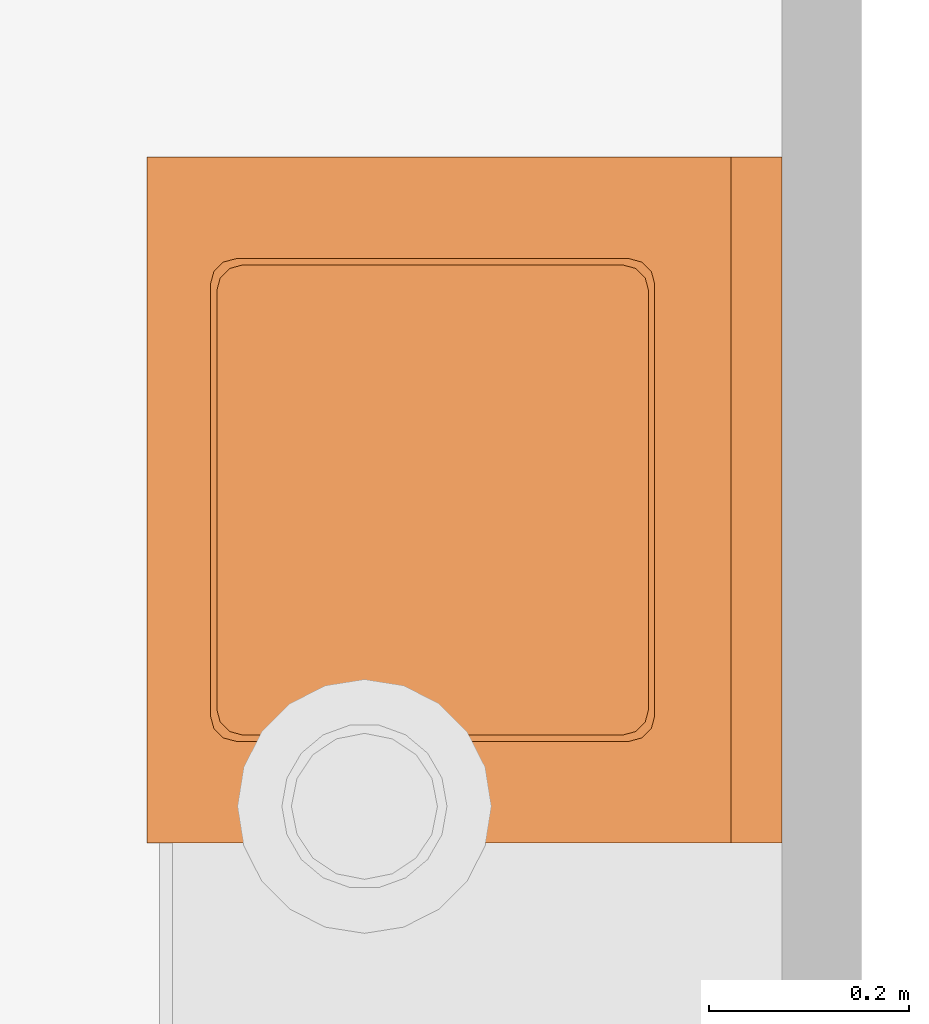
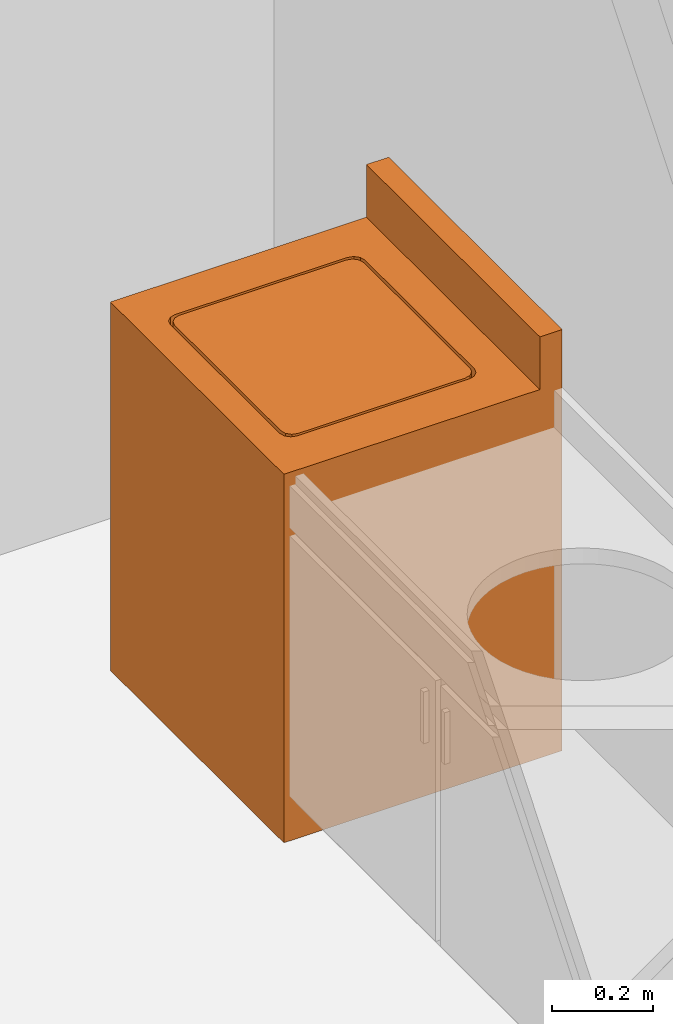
# One storey, part 28 of 28: 1 proxy.
"""IFC2X3 building model written with IfcOpenShell, lengths in feet."""

import ifcopenshell
import ifcopenshell.guid

model = None  # the IFC model being written
_history = None  # IfcOwnerHistory: only IFC2X3 demands one
_inside = {}  # id of a spatial element -> (the spatial element, [elements in it])
_under = {}  # id of a project, library or spatial element -> (it, [spatial elements below it])
_declared = {}  # id of a project -> (the project, [libraries it declares])
_typed = {}  # id of a type object -> (the type object, [elements of that type])
_made_of = {}  # id of a material, layer set ... -> (it, [elements and type objects made of it])


def new_model(schema):
    """Start an empty IFC model of exactly this schema.

    Asked for "IFC4X3", IfcOpenShell would pick the latest addendum, in which some entities
    have other attributes; the version numbers below select the first issue.
    IFC2X3 requires an IfcOwnerHistory on every rooted entity: one is made here for all.
    """
    global model, _history
    if schema == "IFC4X3":
        model = ifcopenshell.file(schema_version=(4, 3, 0, 0))
    else:
        model = ifcopenshell.file(schema=schema)
    _inside.clear()
    _under.clear()
    _declared.clear()
    _typed.clear()
    _made_of.clear()
    _history = None
    if model.schema == "IFC2X3":
        org = make("IfcOrganization", Name="unknown")
        user = make(
            "IfcPersonAndOrganization",
            ThePerson=make("IfcPerson", FamilyName="unknown"),
            TheOrganization=org,
        )
        app = make(
            "IfcApplication",
            ApplicationDeveloper=org,
            Version="unknown",
            ApplicationFullName="unknown",
            ApplicationIdentifier="unknown",
        )
        _history = make(
            "IfcOwnerHistory",
            OwningUser=user,
            OwningApplication=app,
            ChangeAction="ADDED",
            CreationDate=0,
        )
    return model


def make(cls, **values):
    """One entity of the class cls with the attributes given. An attribute that is None is left unset."""
    return model.create_entity(
        cls, **{name: value for name, value in values.items() if value is not None}
    )


def entity(cls, *values):
    """Any entity or typed value of the class cls, its attributes in the order of the schema. None: left unset."""
    e = model.create_entity(cls)
    for i, value in enumerate(values):
        if value is not None:
            e[i] = value
    return e


def rooted(cls, **values):
    """An entity with a GlobalId (a new one), such as an element, a storey or a relation."""
    return make(cls, GlobalId=ifcopenshell.guid.new(), OwnerHistory=_history, **values)


def si_unit(unit_type, name, prefix=None):
    """IfcSIUnit, for example si_unit("LENGTHUNIT", "METRE", prefix="MILLI")."""
    return make("IfcSIUnit", UnitType=unit_type, Prefix=prefix, Name=name)


def converted_unit(unit_type, name, factor, base, dimensions=None, offset=None):
    """IfcConversionBasedUnit, such as the inch: factor (a typed value) times the base unit."""
    return make(
        "IfcConversionBasedUnit"
        if offset is None
        else "IfcConversionBasedUnitWithOffset",
        ConversionOffset=offset,
        Dimensions=None
        if dimensions is None
        else entity("IfcDimensionalExponents", *dimensions),
        UnitType=unit_type,
        Name=name,
        ConversionFactor=make(
            "IfcMeasureWithUnit", ValueComponent=factor, UnitComponent=base
        ),
    )


def derived_unit(unit_type, elements):
    """IfcDerivedUnit: a product of units, each with its exponent."""
    return make(
        "IfcDerivedUnit",
        Elements=[
            make("IfcDerivedUnitElement", Unit=unit, Exponent=power)
            for unit, power in elements
        ],
        UnitType=unit_type,
    )


def assignment(units):
    """IfcUnitAssignment: the units of a project."""
    return None if units is None else make("IfcUnitAssignment", Units=units)


def point(xyz):
    """IfcCartesianPoint."""
    return None if xyz is None else make("IfcCartesianPoint", Coordinates=xyz)


def direction(xyz):
    """IfcDirection."""
    return None if xyz is None else make("IfcDirection", DirectionRatios=xyz)


def frame(location, z_axis=None, x_axis=None):
    """IfcAxis2Placement3D, a coordinate frame: its origin and axes. An axis left out is left unset."""
    return make(
        "IfcAxis2Placement3D",
        Location=point(location),
        Axis=direction(z_axis),
        RefDirection=direction(x_axis),
    )


def origin():
    """The frame at (0, 0, 0) with its axes left unset."""
    return frame((0.0, 0.0, 0.0))


def place(relative_to, where):
    """IfcLocalPlacement: puts the frame where relative to a parent placement (None: the world)."""
    return make(
        "IfcLocalPlacement", PlacementRelTo=relative_to, RelativePlacement=where
    )


def context(
    kind, dimensions, precision=None, world=None, true_north=None, identifier=None
):
    """IfcGeometricRepresentationContext, for example the 3D "Model" context."""
    return make(
        "IfcGeometricRepresentationContext",
        ContextIdentifier=identifier,
        ContextType=kind,
        CoordinateSpaceDimension=dimensions,
        Precision=precision,
        WorldCoordinateSystem=world,
        TrueNorth=true_north,
    )


def subcontext(parent, identifier, kind, view, scale=None):
    """IfcGeometricRepresentationSubContext, for example "Body" below "Model"."""
    return make(
        "IfcGeometricRepresentationSubContext",
        ContextIdentifier=identifier,
        ContextType=kind,
        ParentContext=parent,
        TargetScale=scale,
        TargetView=view,
    )


def project(units=None, contexts=None):
    """IfcProject with its units and contexts."""
    return rooted(
        "IfcProject",
        Name="project",
        RepresentationContexts=contexts,
        UnitsInContext=assignment(units),
    )


def spatial(cls, under=None, at=None, **own):
    """A site, building, storey or space (cls), placed at a placement, below another one or the project."""
    s = rooted(cls, ObjectPlacement=at, **own)
    if under is not None:
        _under.setdefault(under.id(), (under, []))[1].append(s)
    return s


def faces_of(points, faces, orient=None, outer=None):
    """IfcFace entities. A face is a list of loops; a loop is a list of indices into points, from 0.

    orient and outer hold one flag for each loop. By default every Orientation is true, the
    first loop of a face is its IfcFaceOuterBound and the others are IfcFaceBound.
    """
    made = []
    for i, loops in enumerate(faces):
        bounds = []
        for j, loop in enumerate(loops):
            is_outer = j == 0 if outer is None else outer[i][j]
            bounds.append(
                make(
                    "IfcFaceOuterBound" if is_outer else "IfcFaceBound",
                    Bound=make("IfcPolyLoop", Polygon=[points[k] for k in loop]),
                    Orientation=True if orient is None else orient[i][j],
                )
            )
        made.append(make("IfcFace", Bounds=bounds))
    return made


def faceted_brep(points, faces, orient=None, outer=None, voids=None):
    """IfcFacetedBrep: a solid bounded by flat faces; with voids (closed shells), ...WithVoids."""
    shared = [point(p) for p in points]
    hull = make("IfcClosedShell", CfsFaces=faces_of(shared, faces, orient, outer))
    if voids is None:
        return make("IfcFacetedBrep", Outer=hull)
    return make(
        "IfcFacetedBrepWithVoids",
        Outer=hull,
        Voids=[
            make(cls, CfsFaces=faces_of(shared, fs, o, b)) for cls, fs, o, b in voids
        ],
    )


def shape(context_of_items, identifier, shape_type, items):
    """IfcShapeRepresentation: the items that make up one representation, for example the "Body"."""
    return make(
        "IfcShapeRepresentation",
        ContextOfItems=context_of_items,
        RepresentationIdentifier=identifier,
        RepresentationType=shape_type,
        Items=items,
    )


def source(mapping_origin, context_of_items, identifier, shape_type, items):
    """IfcRepresentationMap: a shape defined once, which mapped items show again and again."""
    return make(
        "IfcRepresentationMap",
        MappingOrigin=mapping_origin,
        MappedRepresentation=shape(context_of_items, identifier, shape_type, items),
    )


def transform(
    local_origin,
    x_axis=None,
    y_axis=None,
    z_axis=None,
    scale=None,
    scale2=None,
    scale3=None,
    uniform=True,
):
    """IfcCartesianTransformationOperator3D, or its non-uniform kind. x_axis, y_axis, z_axis: its Axis1, 2, 3."""
    if uniform:
        return make(
            "IfcCartesianTransformationOperator3D",
            Axis1=direction(x_axis),
            Axis2=direction(y_axis),
            LocalOrigin=point(local_origin),
            Scale=scale,
            Axis3=direction(z_axis),
        )
    return make(
        "IfcCartesianTransformationOperator3DnonUniform",
        Axis1=direction(x_axis),
        Axis2=direction(y_axis),
        LocalOrigin=point(local_origin),
        Scale=scale,
        Axis3=direction(z_axis),
        Scale2=scale2,
        Scale3=scale3,
    )


def mapped(mapping_source, mapping_target):
    """IfcMappedItem: shows the shape of a source again, moved by a transform."""
    return make(
        "IfcMappedItem", MappingSource=mapping_source, MappingTarget=mapping_target
    )


def material(Name=None, Category=None):
    """IfcMaterial."""
    return make("IfcMaterial", Name=Name, Category=Category)


def made_of(thing, what):
    """Note that an element or type object is made of a material, layer set ...; save() writes the relation."""
    if what is not None:
        _made_of.setdefault(what.id(), (what, []))[1].append(thing)
    return thing


def type_object(cls, material=None, **own):
    """A type object (cls), such as IfcWallType, which elements share."""
    return made_of(rooted(cls, **own), material)


def type_shapes(of_type, sources):
    """Give a type object the sources (RepresentationMaps) that its elements show as mapped items."""
    of_type.RepresentationMaps = sources


def element(
    cls,
    number,
    at=None,
    inside=None,
    cuts=None,
    type_object=None,
    material=None,
    context=None,
    identifier="Body",
    shape_type=None,
    held_by="IfcProductDefinitionShape",
    body=None,
    shapes=None,
    **own,
):
    """One element of the class cls, such as IfcWall. Its Tag is "e" and its number.

    at: its placement. inside: the storey or other place that contains it. cuts: it is an
    opening in that element (IfcRelVoidsElement). A single representation is given by context,
    identifier, shape_type and body (its items); several are given by shapes. held_by: the class
    of the entity that holds the representations. save() writes the other relations.
    """
    e = rooted(cls, Tag="e%d" % number, ObjectPlacement=at, **own)
    if body is not None:
        shapes = [shape(context, identifier, shape_type, body)]
    if shapes is not None:
        e.Representation = make(held_by, Representations=shapes)
    if inside is not None:
        _inside.setdefault(inside.id(), (inside, []))[1].append(e)
    if cuts is not None:
        rooted(
            "IfcRelVoidsElement", RelatingBuildingElement=cuts, RelatedOpeningElement=e
        )
    if type_object is not None:
        _typed.setdefault(type_object.id(), (type_object, []))[1].append(e)
    return made_of(e, material)


def aggregate(whole, parts):
    """IfcRelAggregates: a whole, such as a stair, and the parts it consists of."""
    return rooted("IfcRelAggregates", RelatingObject=whole, RelatedObjects=parts)


def save(model, path):
    """Write the relations noted so far, then the file.

    IfcRelAggregates (storeys below a building ...), IfcRelContainedInSpatialStructure (elements
    in a storey), IfcRelDefinesByType, IfcRelAssociatesMaterial and IfcRelDeclares: one each for
    every whole, place, type object, material and project.
    """
    for whole, parts in _under.values():
        aggregate(whole, parts)
    for where, things in _inside.values():
        rooted(
            "IfcRelContainedInSpatialStructure",
            RelatedElements=things,
            RelatingStructure=where,
        )
    for kind, things in _typed.values():
        rooted("IfcRelDefinesByType", RelatedObjects=things, RelatingType=kind)
    for what, things in _made_of.values():
        rooted("IfcRelAssociatesMaterial", RelatedObjects=things, RelatingMaterial=what)
    for by, libraries in _declared.values():
        rooted("IfcRelDeclares", RelatingContext=by, RelatedDefinitions=libraries)
    model.write(path)


model = new_model("IFC2X3")

# Units and contexts
model_context = context("Model", 3, precision=0.0001, world=origin(), true_north=direction((6.12303176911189e-17, 1.0)))
body_context = subcontext(model_context, "Body", "Model", "MODEL_VIEW")
ifc_project = project(units=[converted_unit("LENGTHUNIT", "FOOT", entity("IfcRatioMeasure", 0.3048), si_unit("LENGTHUNIT", "METRE"), dimensions=[1, 0, 0, 0, 0, 0, 0]), converted_unit("AREAUNIT", "SQUARE FOOT", entity("IfcRatioMeasure", 0.09290304), si_unit("AREAUNIT", "SQUARE_METRE"), dimensions=[2, 0, 0, 0, 0, 0, 0]), converted_unit("VOLUMEUNIT", "CUBIC FOOT", entity("IfcRatioMeasure", 0.028316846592), si_unit("VOLUMEUNIT", "CUBIC_METRE"), dimensions=[3, 0, 0, 0, 0, 0, 0]), converted_unit("PLANEANGLEUNIT", "DEGREE", entity("IfcRatioMeasure", 0.0174532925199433), si_unit("PLANEANGLEUNIT", "RADIAN"), dimensions=[0, 0, 0, 0, 0, 0, 0]), si_unit("MASSUNIT", "GRAM", prefix="KILO"), derived_unit("MASSDENSITYUNIT", [(si_unit("MASSUNIT", "GRAM", prefix="KILO"), 1), (si_unit("LENGTHUNIT", "METRE"), -3)]), si_unit("TIMEUNIT", "SECOND"), si_unit("FREQUENCYUNIT", "HERTZ"), si_unit("THERMODYNAMICTEMPERATUREUNIT", "DEGREE_CELSIUS"), derived_unit("THERMALTRANSMITTANCEUNIT", [(si_unit("MASSUNIT", "GRAM", prefix="KILO"), 1), (si_unit("THERMODYNAMICTEMPERATUREUNIT", "KELVIN"), -1), (si_unit("TIMEUNIT", "SECOND"), -3)]), derived_unit("VOLUMETRICFLOWRATEUNIT", [(si_unit("LENGTHUNIT", "METRE"), 3), (si_unit("TIMEUNIT", "SECOND"), -1)]), si_unit("ELECTRICCURRENTUNIT", "AMPERE"), si_unit("ELECTRICVOLTAGEUNIT", "VOLT"), si_unit("POWERUNIT", "WATT"), si_unit("FORCEUNIT", "NEWTON"), si_unit("ILLUMINANCEUNIT", "LUX"), si_unit("LUMINOUSFLUXUNIT", "LUMEN"), si_unit("LUMINOUSINTENSITYUNIT", "CANDELA"), derived_unit("USERDEFINED", [(si_unit("MASSUNIT", "GRAM", prefix="KILO"), -1), (si_unit("LENGTHUNIT", "METRE"), -2), (si_unit("TIMEUNIT", "SECOND"), 3), (si_unit("LUMINOUSFLUXUNIT", "LUMEN"), 1)]), derived_unit("LINEARVELOCITYUNIT", [(si_unit("LENGTHUNIT", "METRE"), 1), (si_unit("TIMEUNIT", "SECOND"), -1)]), si_unit("PRESSUREUNIT", "PASCAL"), derived_unit("USERDEFINED", [(si_unit("LENGTHUNIT", "METRE"), -2), (si_unit("MASSUNIT", "GRAM", prefix="KILO"), 1), (si_unit("TIMEUNIT", "SECOND"), -2)])], contexts=[model_context])

# Site, building, storey
site_placement = place(None, origin())
site = spatial("IfcSite", under=ifc_project, at=site_placement, Name="表面", CompositionType="ELEMENT")
building_placement = place(site_placement, origin())
building = spatial("IfcBuilding", under=site, at=building_placement, CompositionType="ELEMENT")
storey_placement = place(building_placement, frame((0.0, 0.0, 10.0)))
storey = spatial("IfcBuildingStorey", under=building, at=storey_placement, Name="Level 2", CompositionType="ELEMENT", Elevation=9.99999999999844)

# Proxy
ifc_material = material(Name="Metal - Paint Finish - Ivory, Matte")
building_element_proxy_type = type_object("IfcBuildingElementProxyType", Name="27\" x 25\" x 35\"", PredefinedType="NOTDEFINED", material=ifc_material)
shared_shape = source(origin(), body_context, "Body", "Brep", [
    faceted_brep([(1.86941772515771, 1.61941772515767, 2.83333333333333), (1.88466878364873, 1.60416666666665, 2.83333333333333), (1.89025105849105, 1.58333333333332, 2.83333333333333), (1.89583333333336, 1.56249999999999, 2.83333333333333), (1.89583333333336, 0.3125, 2.83333333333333), (1.8893874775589, 0.288443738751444, 2.83333333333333), (1.88466878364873, 0.270833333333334, 2.83333333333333), (1.86941772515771, 0.255582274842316, 2.83333333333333), (1.8541666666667, 0.240331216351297, 2.83333333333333), (1.83333333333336, 0.234748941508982, 2.83333333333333), (1.81250000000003, 0.229166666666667, 2.83333333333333), (0.437500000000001, 0.229166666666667, 2.83333333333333), (0.413443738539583, 0.235612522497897, 2.83333333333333), (0.395833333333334, 0.240331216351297, 2.83333333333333), (0.380582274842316, 0.255582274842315, 2.83333333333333), (0.365331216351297, 0.270833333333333, 2.83333333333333), (0.359748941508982, 0.291666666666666, 2.83333333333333), (0.354166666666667, 0.312499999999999, 2.83333333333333), (0.354166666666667, 1.56249999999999, 2.83333333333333), (0.360612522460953, 1.58655626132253, 2.83333333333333), (0.365331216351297, 1.60416666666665, 2.83333333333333), (0.380582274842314, 1.61941772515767, 2.83333333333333), (0.395833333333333, 1.63466878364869, 2.83333333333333), (0.416666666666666, 1.64025105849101, 2.83333333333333), (0.4375, 1.64583333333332, 2.83333333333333), (1.81250000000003, 1.64583333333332, 2.83333333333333), (1.83655626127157, 1.6393874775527, 2.83333333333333), (1.85416666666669, 1.63466878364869, 2.83333333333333), (1.88466878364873, 0.270833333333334, 2.91666666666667), (1.89025105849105, 0.291666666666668, 2.91666666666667), (1.89583333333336, 0.3125, 2.91666666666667), (1.89583333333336, 1.56249999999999, 2.91666666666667), (1.88938747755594, 1.58655626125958, 2.91666666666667), (1.88466878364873, 1.60416666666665, 2.91666666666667), (1.86941772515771, 1.61941772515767, 2.91666666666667), (1.85416666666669, 1.63466878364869, 2.91666666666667), (1.83333333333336, 1.64025105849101, 2.91666666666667), (1.81250000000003, 1.64583333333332, 2.91666666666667), (0.437499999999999, 1.64583333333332, 2.91666666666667), (0.416666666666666, 1.64025105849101, 2.91666666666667), (0.395833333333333, 1.63466878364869, 2.91666666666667), (0.380582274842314, 1.61941772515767, 2.91666666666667), (0.365331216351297, 1.60416666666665, 2.91666666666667), (0.359748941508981, 1.58333333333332, 2.91666666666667), (0.354166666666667, 1.56249999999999, 2.91666666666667), (0.354166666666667, 0.312499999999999, 2.91666666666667), (0.359748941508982, 0.291666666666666, 2.91666666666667), (0.365331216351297, 0.270833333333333, 2.91666666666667), (0.380582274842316, 0.255582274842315, 2.91666666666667), (0.395833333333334, 0.240331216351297, 2.91666666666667), (0.416666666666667, 0.234748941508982, 2.91666666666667), (0.4375, 0.229166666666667, 2.91666666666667), (1.81250000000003, 0.229166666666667, 2.91666666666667), (1.83655626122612, 0.23561252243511, 2.91666666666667), (1.8541666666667, 0.240331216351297, 2.91666666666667), (1.86941772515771, 0.255582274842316, 2.91666666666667)], [[[0, 1, 2, 3, 4, 5, 6, 7, 8, 9, 10, 11, 12, 13, 14, 15, 16, 17, 18, 19, 20, 21, 22, 23, 24, 25, 26, 27]], [[28, 29, 30, 31, 32, 33, 34, 35, 36, 37, 38, 39, 40, 41, 42, 43, 44, 45, 46, 47, 48, 49, 50, 51, 52, 53, 54, 55]], [[42, 20, 19, 18, 44, 43]], [[22, 21, 20, 42, 41, 40]], [[24, 23, 22, 40, 39, 38]], [[25, 24, 38, 37]], [[35, 27, 26, 25, 37, 36]], [[1, 0, 27, 35, 34, 33]], [[1, 33, 32, 31, 3, 2]], [[4, 3, 31, 30]], [[28, 6, 5, 4, 30, 29]], [[8, 7, 6, 28, 55, 54]], [[8, 54, 53, 52, 10, 9]], [[11, 10, 52, 51]], [[49, 13, 12, 11, 51, 50]], [[48, 47, 15, 14, 13, 49]], [[45, 17, 16, 15, 47, 46]], [[18, 17, 45, 44]]]),
    faceted_brep([(0.0, 2.08333333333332, 0.0), (0.0, 0.0, 0.0), (0.0, 0.0, 2.91666666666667), (0.0, 1.91666666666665, 2.91666666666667), (0.0, 1.91666666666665, 3.33333333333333), (0.0, 2.08333333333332, 3.33333333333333), (2.24999999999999, 1.91666666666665, 2.91666666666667), (2.24999999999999, 0.0, 2.91666666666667), (2.24999999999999, 0.0, 0.0), (2.24999999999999, 2.08333333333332, 0.0), (2.24999999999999, 2.08333333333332, 3.33333333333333), (2.24999999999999, 1.91666666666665, 3.33333333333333), (0.416666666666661, 1.66607162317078, 2.91666666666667), (1.83333333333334, 1.66607162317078, 2.91666666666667), (0.395833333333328, 1.66048934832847, 2.91666666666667), (0.374999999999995, 1.65490707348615, 2.91666666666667), (0.359748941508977, 1.63965601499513, 2.91666666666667), (0.344497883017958, 1.62440495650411, 2.91666666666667), (0.339779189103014, 1.60679455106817, 2.91666666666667), (0.333333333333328, 1.58273828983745, 2.91666666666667), (0.333333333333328, 0.291666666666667, 2.91666666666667), (0.338915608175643, 0.270833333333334, 2.91666666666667), (0.344497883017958, 0.25, 2.91666666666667), (0.359748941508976, 0.234748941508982, 2.91666666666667), (0.374999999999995, 0.219497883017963, 2.91666666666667), (0.392610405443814, 0.214779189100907, 2.91666666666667), (0.416666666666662, 0.208333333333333, 2.91666666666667), (1.83333333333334, 0.208333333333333, 2.91666666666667), (1.91666666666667, 1.58273828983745, 2.91666666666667), (1.91666666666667, 0.291666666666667, 2.91666666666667), (1.91022081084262, 0.267610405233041, 2.91666666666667), (1.90550211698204, 0.25, 2.91666666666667), (1.89025105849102, 0.234748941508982, 2.91666666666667), (1.85416666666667, 0.213915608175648, 2.91666666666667), (1.875, 0.219497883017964, 2.91666666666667), (1.85738959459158, 1.65962576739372, 2.91666666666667), (1.875, 1.65490707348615, 2.91666666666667), (1.89025105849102, 1.63965601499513, 2.91666666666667), (1.90550211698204, 1.62440495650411, 2.91666666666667), (1.91108439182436, 1.60357162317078, 2.91666666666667), (0.416666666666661, 1.66607162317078, 2.75), (0.392610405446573, 1.65962576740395, 2.75), (0.374999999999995, 1.65490707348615, 2.75), (0.359748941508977, 1.63965601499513, 2.75), (0.344497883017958, 1.62440495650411, 2.75), (0.338915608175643, 1.60357162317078, 2.75), (0.333333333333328, 1.58273828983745, 2.75), (0.333333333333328, 0.291666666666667, 2.75), (0.339779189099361, 0.26761040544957, 2.75), (0.344497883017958, 0.25, 2.75), (0.359748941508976, 0.234748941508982, 2.75), (0.374999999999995, 0.219497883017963, 2.75), (0.395833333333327, 0.213915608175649, 2.75), (0.416666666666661, 0.208333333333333, 2.75), (1.83333333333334, 0.208333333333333, 2.75), (1.85738959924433, 0.214779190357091, 2.75), (1.875, 0.219497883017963, 2.75), (1.89025105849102, 0.234748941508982, 2.75), (1.90550211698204, 0.25, 2.75), (1.91108439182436, 0.270833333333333, 2.75), (1.91666666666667, 0.291666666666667, 2.75), (1.91666666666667, 1.58273828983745, 2.75), (1.9102208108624, 1.60679455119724, 2.75), (1.90550211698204, 1.62440495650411, 2.75), (1.89025105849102, 1.63965601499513, 2.75), (1.875, 1.65490707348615, 2.75), (1.85416666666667, 1.66048934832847, 2.75), (1.83333333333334, 1.66607162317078, 2.75)], [[[0, 1, 2, 3, 4, 5]], [[6, 7, 8, 9, 10, 11]], [[4, 3, 6, 11]], [[5, 4, 11, 10]], [[0, 5, 10, 9]], [[3, 12, 13]], [[13, 6, 3]], [[3, 14, 12]], [[3, 15, 14]], [[3, 16, 15]], [[3, 17, 16]], [[3, 18, 17]], [[3, 19, 18]], [[3, 2, 19]], [[20, 19, 2]], [[2, 21, 20]], [[2, 22, 21]], [[2, 23, 22]], [[2, 24, 23]], [[2, 25, 24]], [[2, 26, 25]], [[26, 2, 27]], [[7, 27, 2]], [[6, 28, 7]], [[29, 7, 28]], [[7, 29, 30]], [[7, 30, 31]], [[7, 31, 32]], [[7, 33, 27]], [[7, 34, 33]], [[7, 32, 34]], [[6, 13, 35]], [[6, 35, 36]], [[6, 36, 37]], [[6, 37, 38]], [[6, 38, 39]], [[6, 39, 28]], [[8, 1, 0, 9]], [[7, 2, 1, 8]], [[40, 41, 42, 43, 44, 45, 46, 47, 48, 49, 50, 51, 52, 53, 54, 55, 56, 57, 58, 59, 60, 61, 62, 63, 64, 65, 66, 67]], [[67, 13, 12, 40]], [[42, 41, 40, 12, 14, 15]], [[44, 43, 42, 15, 16, 17]], [[19, 46, 45, 44, 17, 18]], [[46, 19, 20, 47]], [[49, 48, 47, 20, 21, 22]], [[51, 50, 49, 22, 23, 24]], [[26, 53, 52, 51, 24, 25]], [[53, 26, 27, 54]], [[56, 55, 54, 27, 33, 34]], [[58, 57, 56, 34, 32, 31]], [[29, 60, 59, 58, 31, 30]], [[60, 29, 28, 61]], [[63, 62, 61, 28, 39, 38]], [[65, 64, 63, 38, 37, 36]], [[13, 67, 66, 65, 36, 35]]]),
])
type_shapes(building_element_proxy_type, [shared_shape])
proxy_placement = place(storey_placement, frame((9.50154524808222, 5.81260202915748, 0.343749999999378), z_axis=(0.0, 0.0, 1.0), x_axis=(0.0, -1.0, 0.0)))
element("IfcBuildingElementProxy", 1, at=proxy_placement, inside=storey, type_object=building_element_proxy_type, material=ifc_material, Name="Washer:27\" x 25\" x 35\"", ObjectType="27\" x 25\" x 35\"", context=body_context, shape_type="MappedRepresentation", body=[
    mapped(shared_shape, transform((0.0, 0.0, 0.0), scale=1.0)),
])

save(model, "model.ifc")
